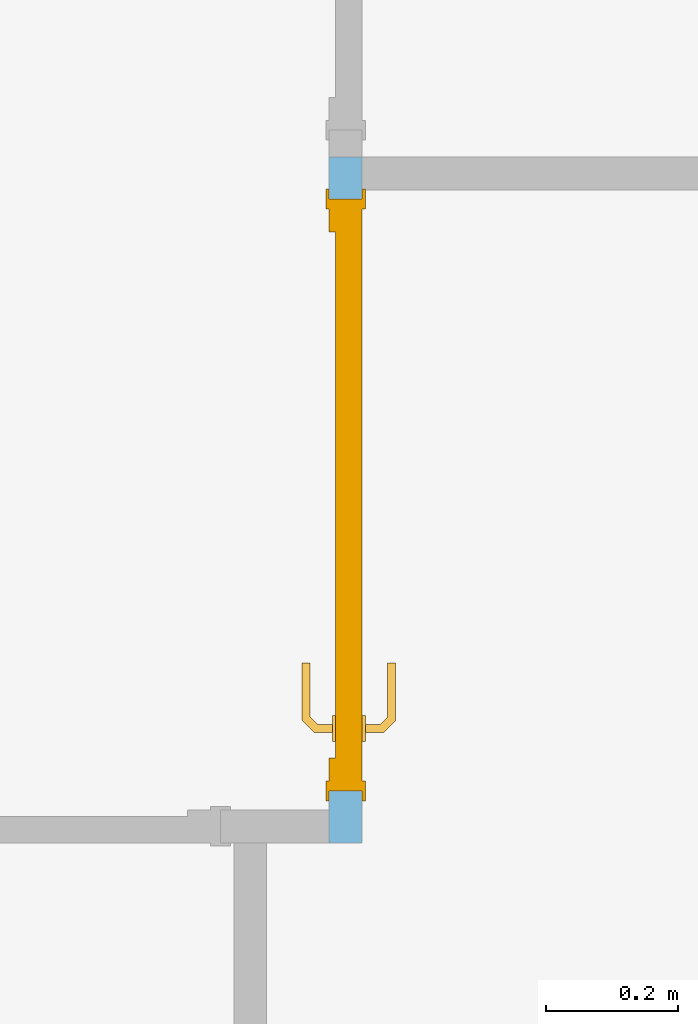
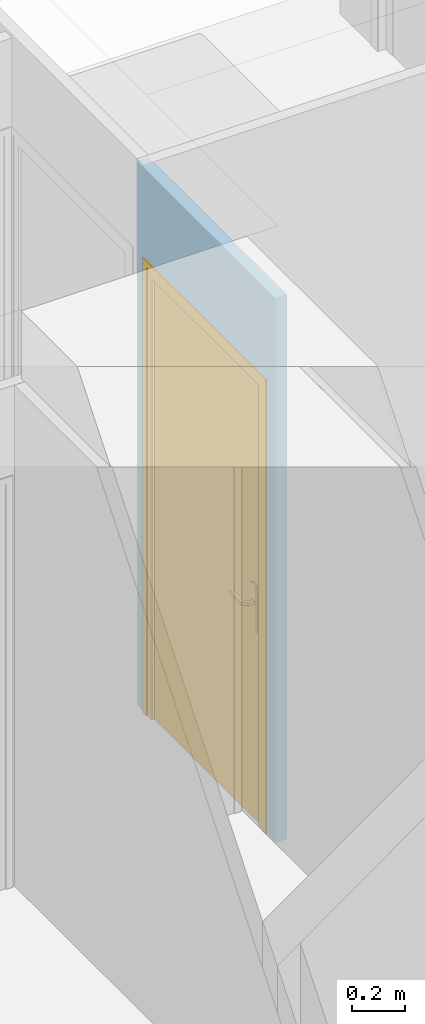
# One storey, part 5 of 11: 1 door, 2 openings, plus 1 element that does not belong to this part.
"""IFC2X3 building model written with IfcOpenShell, lengths in metres."""

from ifc_helpers import new_model, entity, si_unit, converted_unit, derived_unit, direction, frame, frame_2d, origin, place, context, subcontext, project, spatial, polyline, rectangle, extrude, clip, bounded_halfspace, faceted_brep, source, transform, mapped, material, material_list, layer, layer_set, layer_usage, type_object, type_shapes, element, fill, save


model = new_model("IFC2X3")

# Units and contexts
model_context = context("Model", 3, precision=1e-05, world=origin(), true_north=direction((6.12303176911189e-17, 1.0)))
body_context = subcontext(model_context, "Body", "Model", "MODEL_VIEW")
ifc_project = project(units=[si_unit("LENGTHUNIT", "METRE"), si_unit("AREAUNIT", "SQUARE_METRE"), si_unit("VOLUMEUNIT", "CUBIC_METRE"), converted_unit("PLANEANGLEUNIT", "DEGREE", entity("IfcRatioMeasure", 0.0174532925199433), si_unit("PLANEANGLEUNIT", "RADIAN"), dimensions=[0, 0, 0, 0, 0, 0, 0]), si_unit("MASSUNIT", "GRAM", prefix="KILO"), derived_unit("MASSDENSITYUNIT", [(si_unit("MASSUNIT", "GRAM", prefix="KILO"), 1), (si_unit("LENGTHUNIT", "METRE"), -3)]), derived_unit("MOMENTOFINERTIAUNIT", [(si_unit("LENGTHUNIT", "METRE"), 4)]), si_unit("TIMEUNIT", "SECOND"), si_unit("FREQUENCYUNIT", "HERTZ"), si_unit("THERMODYNAMICTEMPERATUREUNIT", "DEGREE_CELSIUS"), derived_unit("THERMALTRANSMITTANCEUNIT", [(si_unit("MASSUNIT", "GRAM", prefix="KILO"), 1), (si_unit("THERMODYNAMICTEMPERATUREUNIT", "KELVIN"), -1), (si_unit("TIMEUNIT", "SECOND"), -3)]), derived_unit("VOLUMETRICFLOWRATEUNIT", [(si_unit("LENGTHUNIT", "METRE"), 3), (si_unit("TIMEUNIT", "SECOND"), -1)]), si_unit("ELECTRICCURRENTUNIT", "AMPERE"), si_unit("ELECTRICVOLTAGEUNIT", "VOLT"), si_unit("POWERUNIT", "WATT"), si_unit("FORCEUNIT", "NEWTON", prefix="KILO"), si_unit("ILLUMINANCEUNIT", "LUX"), si_unit("LUMINOUSFLUXUNIT", "LUMEN"), si_unit("LUMINOUSINTENSITYUNIT", "CANDELA"), derived_unit("USERDEFINED", [(si_unit("MASSUNIT", "GRAM", prefix="KILO"), -1), (si_unit("LENGTHUNIT", "METRE"), -2), (si_unit("TIMEUNIT", "SECOND"), 3), (si_unit("LUMINOUSFLUXUNIT", "LUMEN"), 1)]), derived_unit("LINEARVELOCITYUNIT", [(si_unit("LENGTHUNIT", "METRE"), 1), (si_unit("TIMEUNIT", "SECOND"), -1)]), si_unit("PRESSUREUNIT", "PASCAL"), derived_unit("USERDEFINED", [(si_unit("LENGTHUNIT", "METRE"), -2), (si_unit("MASSUNIT", "GRAM", prefix="KILO"), 1), (si_unit("TIMEUNIT", "SECOND"), -2)]), derived_unit("LINEARFORCEUNIT", [(si_unit("MASSUNIT", "GRAM", prefix="KILO"), 1), (si_unit("LENGTHUNIT", "METRE"), 1), (si_unit("TIMEUNIT", "SECOND"), -2), (si_unit("LENGTHUNIT", "METRE"), -1)]), derived_unit("PLANARFORCEUNIT", [(si_unit("MASSUNIT", "GRAM", prefix="KILO"), 1), (si_unit("LENGTHUNIT", "METRE"), 1), (si_unit("TIMEUNIT", "SECOND"), -2), (si_unit("LENGTHUNIT", "METRE"), -2)])], contexts=[model_context])

# Site, building, storey
site_placement = place(None, origin())
site = spatial("IfcSite", under=ifc_project, at=site_placement, Name="Surface", CompositionType="ELEMENT")
building_placement = place(site_placement, origin())
building = spatial("IfcBuilding", under=site, at=building_placement, CompositionType="ELEMENT")
storey_placement = place(building_placement, frame((0.0, 0.0, 2.72)))
storey = spatial("IfcBuildingStorey", under=building, at=storey_placement, Name="02 ETG", CompositionType="ELEMENT", Elevation=2.72)

# Wall, openings, door
ifc_material_1 = material(Name="Mur par défaut")
ifc_layer = layer(ifc_material_1, 0.05)
ifc_layer_set = layer_set([ifc_layer], Name="Mur de base:Int. Plâtre 50 mm")
ifc_layer_usage = layer_usage(ifc_layer_set, "AXIS2", "NEGATIVE", 0.025)
wall_type = type_object("IfcWallType", Name="Mur de base:Int. Plâtre 50 mm", PredefinedType="STANDARD", material=ifc_layer_set)
wall_placement = place(storey_placement, frame((9.81156158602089, -0.105960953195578, 0.0), z_axis=(0.0, 0.0, 1.0), x_axis=(0.0, -1.0, 0.0)))
wall = element("IfcWallStandardCase", 1, at=wall_placement, inside=storey, type_object=wall_type, material=ifc_layer_usage, Name="Mur de base:Int. Plâtre 50 mm", ObjectType="Mur de base:Int. Plâtre 50 mm", context=body_context, shape_type="Clipping", body=[
    clip(extrude(rectangle(XDim=1.04249999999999, YDim=0.0500000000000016, at=frame_2d((0.521249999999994, -3.12250225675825e-16), x_axis=(-1.0, 0.0))), origin(), (0.0, 0.0, 1.0), 2.5), bounded_halfspace(frame((0.0, -0.0249999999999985, 2.5), z_axis=(0.0, 0.0, -1.0), x_axis=(0.0, 1.0, 0.0)), True, frame((0.0, -0.0249999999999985, 2.5)), polyline([(0.0, 0.0), (0.05, 0.0), (0.992499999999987, 0.0), (1.01749999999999, 0.0), (1.01749999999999, 0.0250000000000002), (0.0, 0.0249999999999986), (0.0, 0.0)]))),
])
opening_1_placement = place(wall_placement, frame((0.0637499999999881, -0.0250000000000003, 0.0)))
opening_1 = element("IfcOpeningElement", 2, at=opening_1_placement, cuts=wall, Name="Int. Simple:Porte pleine parement lisse bois prépeinte:1", ObjectType="Opening", context=body_context, shape_type="SweptSolid", body=[
    extrude(rectangle(XDim=2.075, YDim=0.9, at=frame_2d((1.0375, 0.45), x_axis=(1.0, 0.0))), frame((0.0, 0.0, 0.0), z_axis=(0.0, 1.0, 0.0), x_axis=(0.0, 0.0, 1.0)), (0.0, 0.0, 1.0), 0.05),
])
opening_2_placement = place(wall_placement, frame((-0.941050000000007, -0.0249999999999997, 0.0)))
element("IfcOpeningElement", 3, at=opening_2_placement, cuts=wall, Name="Int. Simple:Porte pleine parement lisse bois prépeinte:1", ObjectType="Opening", context=body_context, shape_type="SweptSolid", body=[
    extrude(rectangle(XDim=2.075, YDim=0.9, at=frame_2d((1.0375, 0.45), x_axis=(1.0, 0.0))), frame((0.0, 0.0, 0.0), z_axis=(0.0, 1.0, 0.0), x_axis=(0.0, 0.0, 1.0)), (0.0, 0.0, 1.0), 0.05),
])
ifc_material_2 = material(Name="Finition Peinture - Blanc satiné")
ifc_material_3 = material(Name="Bois - Panneau de porte")
ifc_material_4 = material(Name="Bois - Cadre de porte")
ifc_material_list_1 = material_list([ifc_material_2, ifc_material_3, ifc_material_4])
ifc_material_list_2 = material_list([ifc_material_2, ifc_material_3, ifc_material_4, ifc_material_4])
door_style = type_object("IfcDoorStyle", Name="Int. Simple:Porte pleine parement lisse bois prépeinte", ConstructionType="NOTDEFINED", OperationType="NOTDEFINED", ParameterTakesPrecedence=False, Sizeable=False, material=ifc_material_list_2)
shared_shape = source(origin(), body_context, "Body", "Brep", [
    faceted_brep([(0.105352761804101, -0.00500000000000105, 0.866003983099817), (0.115, -0.00500000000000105, 0.870000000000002), (0.114999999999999, -0.00500000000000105, 1.08), (0.1053527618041, -0.00500000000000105, 1.08399601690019), (0.094999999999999, -0.00500000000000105, 1.08535898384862), (0.0846472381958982, -0.00500000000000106, 1.08399601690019), (0.0749999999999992, -0.00500000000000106, 1.08), (0.0750000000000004, -0.00500000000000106, 0.870000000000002), (0.0846472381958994, -0.00500000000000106, 0.866003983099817), (0.0950000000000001, -0.00500000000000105, 0.86464101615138), (0.1053527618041, 0.0, 1.08399601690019), (0.114999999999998, 0.0, 1.08), (0.115, 0.0, 0.870000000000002), (0.105352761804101, 0.0, 0.866003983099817), (0.0950000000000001, 0.0, 0.86464101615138), (0.0846472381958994, 0.0, 0.866003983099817), (0.0749999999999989, 0.0, 0.870000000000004), (0.0749999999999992, 0.0, 1.08), (0.0846472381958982, 0.0, 1.08399601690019), (0.094999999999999, 0.0, 1.08535898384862)], [[[0, 1, 2, 3, 4, 5, 6, 7, 8, 9]], [[10, 11, 12, 13, 14, 15, 16, 17, 18, 19]], [[16, 15, 8, 7]], [[8, 15, 14, 9]], [[14, 13, 0, 9]], [[13, 12, 1, 0]], [[2, 1, 12, 11]], [[11, 10, 3, 2]], [[3, 10, 19, 4]], [[19, 18, 5, 4]], [[18, 17, 6, 5]], [[7, 6, 17, 16]]]),
    faceted_brep([(0.105352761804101, 0.0399999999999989, 0.866003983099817), (0.115, 0.0399999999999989, 0.870000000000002), (0.114999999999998, 0.0399999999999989, 1.08), (0.105352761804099, 0.0399999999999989, 1.08399601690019), (0.0949999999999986, 0.0399999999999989, 1.08535898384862), (0.084647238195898, 0.0399999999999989, 1.08399601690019), (0.0749999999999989, 0.0399999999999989, 1.08), (0.0750000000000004, 0.0399999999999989, 0.870000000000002), (0.0846472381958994, 0.0399999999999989, 0.866003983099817), (0.0950000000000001, 0.0399999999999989, 0.86464101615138), (0.105352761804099, 0.0449999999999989, 1.08399601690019), (0.114999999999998, 0.0449999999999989, 1.08), (0.115, 0.0449999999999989, 0.870000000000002), (0.105352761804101, 0.0449999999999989, 0.866003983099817), (0.0950000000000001, 0.0449999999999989, 0.86464101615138), (0.0846472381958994, 0.0449999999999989, 0.866003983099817), (0.0749999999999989, 0.0449999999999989, 0.870000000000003), (0.0749999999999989, 0.0449999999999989, 1.08), (0.084647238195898, 0.0449999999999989, 1.08399601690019), (0.0949999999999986, 0.0449999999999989, 1.08535898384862)], [[[0, 1, 2, 3, 4, 5, 6, 7, 8, 9]], [[10, 11, 12, 13, 14, 15, 16, 17, 18, 19]], [[11, 10, 3, 2]], [[3, 10, 19, 4]], [[19, 18, 5, 4]], [[18, 17, 6, 5]], [[7, 6, 17, 16]], [[16, 15, 8, 7]], [[8, 15, 14, 9]], [[14, 13, 0, 9]], [[13, 12, 1, 0]], [[2, 1, 12, 11]]]),
    faceted_brep([(0.0929747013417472, -0.00500000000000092, 1.00778044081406), (0.0970252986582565, -0.0050000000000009, 1.00778044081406), (0.101000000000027, -0.00500000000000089, 1.00699999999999), (0.101000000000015, -0.00500000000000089, 0.993000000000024), (0.0970252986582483, -0.0050000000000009, 0.992219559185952), (0.0929747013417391, -0.00500000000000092, 0.99221955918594), (0.0889999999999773, -0.00500000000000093, 0.992999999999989), (0.0889999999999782, -0.00500000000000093, 1.007), (0.0889999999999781, -0.0326509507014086, 1.007), (0.092974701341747, -0.0310045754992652, 1.00778044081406), (0.10902358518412, -0.0470534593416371, 1.00778044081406), (0.110701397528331, -0.0430028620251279, 1.00778044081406), (0.0970252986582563, -0.0293267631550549, 1.00778044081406), (0.101000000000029, -0.0276803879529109, 1.007), (0.101000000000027, -0.0276803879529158, 0.993000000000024), (0.0970252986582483, -0.0293267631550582, 0.992219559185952), (0.110701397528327, -0.0430028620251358, 0.992219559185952), (0.109023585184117, -0.047053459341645, 0.99221955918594), (0.0929747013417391, -0.0310045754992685, 0.99221955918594), (0.0889999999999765, -0.0326509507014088, 0.992999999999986), (0.107377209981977, -0.0510281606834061, 1.007), (0.112347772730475, -0.0390281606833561, 1.007), (0.112347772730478, -0.0390281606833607, 0.993000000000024), (0.107377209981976, -0.0510281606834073, 0.992999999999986), (0.195018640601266, -0.0510281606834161, 0.992999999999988), (0.195018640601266, -0.0470534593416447, 0.99221955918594), (0.195018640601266, -0.0430028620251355, 0.992219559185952), (0.195018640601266, -0.039028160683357, 0.993000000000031), (0.195018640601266, -0.0390281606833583, 1.007), (0.195018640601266, -0.0430028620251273, 1.00778044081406), (0.195018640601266, -0.0470534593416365, 1.00778044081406), (0.195018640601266, -0.0510281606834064, 1.00699999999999), (0.147307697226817, -0.0510281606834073, 1.007), (0.152860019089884, -0.045028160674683, 1.0078786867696), (0.15368320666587, -0.039028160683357, 1.007), (0.153683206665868, -0.0390281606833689, 0.993000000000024), (0.152860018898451, -0.0450281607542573, 0.992121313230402), (0.147307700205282, -0.0510281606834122, 0.992999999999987)], [[[0, 1, 2, 3, 4, 5, 6, 7]], [[8, 9, 0, 7]], [[9, 10, 11, 12, 1, 0]], [[12, 13, 2, 1]], [[3, 2, 13, 14]], [[14, 15, 4, 3]], [[15, 16, 17, 18, 5, 4]], [[18, 19, 6, 5]], [[7, 6, 19, 8]], [[20, 10, 9, 8]], [[11, 21, 13, 12]], [[14, 13, 21, 22]], [[22, 16, 15, 14]], [[17, 23, 19, 18]], [[8, 19, 23, 20]], [[24, 25, 26, 27, 28, 29, 30, 31]], [[32, 30, 33]], [[31, 30, 32]], [[10, 20, 32]], [[33, 34, 11]], [[21, 11, 34]], [[34, 29, 28]], [[30, 29, 33]], [[29, 34, 33]], [[10, 32, 33]], [[10, 33, 11]], [[22, 21, 34, 28, 27, 35]], [[35, 26, 36]], [[37, 36, 25]], [[22, 35, 16]], [[35, 27, 26]], [[24, 37, 25]], [[23, 17, 37]], [[37, 17, 36]], [[17, 16, 36]], [[16, 35, 36]], [[25, 36, 26]], [[20, 23, 37, 24, 31, 32]]]),
    faceted_brep([(0.0929747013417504, 0.0449999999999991, 1.00778044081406), (0.0889999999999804, 0.044999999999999, 1.007), (0.0889999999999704, 0.044999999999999, 0.992999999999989), (0.0929747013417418, 0.0449999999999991, 0.99221955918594), (0.0970252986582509, 0.0449999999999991, 0.992219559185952), (0.10100000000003, 0.0449999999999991, 0.993000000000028), (0.101000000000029, 0.0449999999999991, 1.007), (0.0970252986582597, 0.0449999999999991, 1.00778044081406), (0.10100000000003, 0.067485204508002, 0.993000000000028), (0.10100000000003, 0.0674852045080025, 1.007), (0.0970252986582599, 0.0691315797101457, 1.00778044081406), (0.110838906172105, 0.0829451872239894, 1.00778044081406), (0.109161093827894, 0.0869957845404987, 1.00778044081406), (0.0929747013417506, 0.070809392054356, 1.00778044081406), (0.0889999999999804, 0.0724557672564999, 1.007), (0.0889999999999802, 0.072455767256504, 0.992999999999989), (0.0929747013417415, 0.0708093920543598, 0.99221955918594), (0.109161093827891, 0.0869957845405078, 0.99221955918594), (0.110838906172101, 0.0829451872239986, 0.992219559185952), (0.0970252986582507, 0.0691315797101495, 0.992219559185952), (0.112485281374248, 0.0789704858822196, 0.993000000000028), (0.112485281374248, 0.0789704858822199, 1.007), (0.107514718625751, 0.0909704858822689, 1.007), (0.107514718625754, 0.090970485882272, 0.992999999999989), (0.195045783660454, 0.0789704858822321, 0.993000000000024), (0.195045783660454, 0.0829451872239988, 0.992219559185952), (0.195045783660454, 0.086995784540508, 0.99221955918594), (0.195045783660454, 0.0909704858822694, 0.992999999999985), (0.195045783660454, 0.0909704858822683, 1.007), (0.195045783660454, 0.0869957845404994, 1.00778044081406), (0.195045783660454, 0.0829451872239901, 1.00778044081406), (0.195045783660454, 0.0789704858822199, 1.007), (0.153765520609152, 0.0789704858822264, 0.993000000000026), (0.153765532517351, 0.0789704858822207, 1.007), (0.152942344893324, 0.0849704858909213, 1.0078786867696), (0.147445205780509, 0.0909704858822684, 1.007), (0.147445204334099, 0.0909704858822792, 0.992999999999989), (0.152942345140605, 0.0849704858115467, 0.992121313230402)], [[[0, 1, 2, 3, 4, 5, 6, 7]], [[6, 5, 8, 9]], [[9, 10, 7, 6]], [[10, 11, 12, 13, 0, 7]], [[13, 14, 1, 0]], [[2, 1, 14, 15]], [[15, 16, 3, 2]], [[16, 17, 18, 19, 4, 3]], [[19, 8, 5, 4]], [[9, 8, 20, 21]], [[21, 11, 10, 9]], [[12, 22, 14, 13]], [[15, 14, 22, 23]], [[23, 17, 16, 15]], [[18, 20, 8, 19]], [[24, 25, 26, 27, 28, 29, 30, 31]], [[21, 20, 32, 24, 31, 33]], [[33, 30, 34]], [[35, 34, 29]], [[21, 33, 11]], [[33, 31, 30]], [[28, 35, 29]], [[22, 12, 35]], [[35, 12, 34]], [[12, 11, 34]], [[11, 33, 34]], [[29, 34, 30]], [[22, 35, 28, 27, 36, 23]], [[36, 26, 37]], [[27, 26, 36]], [[17, 23, 36]], [[37, 32, 18]], [[20, 18, 32]], [[32, 25, 24]], [[26, 25, 37]], [[25, 32, 37]], [[17, 36, 37]], [[17, 37, 18]]]),
    faceted_brep([(0.034999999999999, 0.04, 2.04), (0.865, 0.04, 2.04), (0.864999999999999, 0.04, 0.0), (0.034999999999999, 0.04, 0.0), (0.034999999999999, 0.0, 2.04), (0.034999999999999, 0.0, 0.0), (0.864999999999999, 0.0, 0.0), (0.865, 0.0, 2.04)], [[[0, 1, 2, 3]], [[4, 5, 6, 7]], [[1, 0, 4, 7]], [[2, 1, 7, 6]], [[3, 2, 6, 5]], [[0, 3, 5, 4]]]),
    faceted_brep([(0.0, 0.0, 0.0), (0.0, 0.050000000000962, 0.0), (0.0499999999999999, 0.050000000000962, 0.0), (0.0499999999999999, 0.040000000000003, 0.0), (0.0349999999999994, 0.040000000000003, 0.0), (0.0349999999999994, 0.0, 0.0), (0.0, 0.0, 2.07500000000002), (0.0, 0.050000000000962, 2.07500000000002), (0.900000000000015, 0.050000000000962, 2.07500000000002), (0.900000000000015, 0.050000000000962, 0.0), (0.85, 0.050000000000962, 0.0), (0.85, 0.050000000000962, 2.025), (0.05, 0.050000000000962, 2.025), (0.05, 0.040000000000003, 2.025), (0.85, 0.040000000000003, 2.025), (0.85, 0.040000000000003, 0.0), (0.865, 0.040000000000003, 0.0), (0.865000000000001, 0.040000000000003, 2.04), (0.0349999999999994, 0.040000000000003, 2.04), (0.0349999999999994, 0.0, 2.04), (0.865, 0.0, 2.04), (0.865, 0.0, 0.0), (0.900000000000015, 0.0, 0.0), (0.900000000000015, 0.0, 2.07500000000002)], [[[0, 1, 2, 3, 4, 5]], [[1, 0, 6, 7]], [[2, 1, 7, 8, 9, 10, 11, 12]], [[3, 2, 12, 13]], [[4, 3, 13, 14, 15, 16, 17, 18]], [[5, 4, 18, 19]], [[0, 5, 19, 20, 21, 22, 23, 6]], [[8, 23, 22, 9]], [[22, 21, 16, 15, 10, 9]], [[14, 11, 10, 15]], [[20, 17, 16, 21]], [[7, 6, 23, 8]], [[13, 12, 11, 14]], [[19, 18, 17, 20]]]),
    faceted_brep([(0.0149999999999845, 0.050000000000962, 0.0), (-0.0150000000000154, 0.050000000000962, 0.0), (-0.0150000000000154, 0.055000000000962, 0.0), (0.0149999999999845, 0.055000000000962, 0.0), (0.0149999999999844, 0.050000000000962, 2.06000000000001), (0.884999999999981, 0.050000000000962, 2.06000000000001), (0.88499999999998, 0.050000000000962, 0.0), (0.91499999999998, 0.050000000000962, 0.0), (0.91499999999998, 0.050000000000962, 2.09000000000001), (-0.0150000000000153, 0.050000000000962, 2.09000000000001), (-0.0150000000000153, 0.055000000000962, 2.09000000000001), (0.91499999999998, 0.055000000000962, 2.09000000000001), (0.91499999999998, 0.055000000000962, 0.0), (0.88499999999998, 0.055000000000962, 0.0), (0.88499999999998, 0.055000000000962, 2.06000000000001), (0.0149999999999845, 0.055000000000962, 2.06000000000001)], [[[0, 1, 2, 3]], [[1, 0, 4, 5, 6, 7, 8, 9]], [[2, 1, 9, 10]], [[3, 2, 10, 11, 12, 13, 14, 15]], [[0, 3, 15, 4]], [[6, 13, 12, 7]], [[5, 14, 13, 6]], [[11, 8, 7, 12]], [[10, 9, 8, 11]], [[4, 15, 14, 5]]]),
    faceted_brep([(-0.0150000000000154, -0.005, 0.0), (0.0149999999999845, -0.005, 0.0), (0.0149999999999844, -0.005, 2.06000000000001), (0.884999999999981, -0.005, 2.06000000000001), (0.88499999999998, -0.005, 0.0), (0.91499999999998, -0.005, 0.0), (0.91499999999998, -0.005, 2.09000000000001), (-0.0150000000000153, -0.005, 2.09000000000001), (-0.0150000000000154, 0.0, 0.0), (-0.0150000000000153, 0.0, 2.09000000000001), (0.0149999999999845, 0.0, 0.0), (0.91499999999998, 0.0, 2.09000000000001), (0.91499999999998, 0.0, 0.0), (0.88499999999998, 0.0, 0.0), (0.88499999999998, 0.0, 2.06000000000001), (0.0149999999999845, 0.0, 2.06000000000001)], [[[0, 1, 2, 3, 4, 5, 6, 7]], [[8, 0, 7, 9]], [[10, 8, 9, 11, 12, 13, 14, 15]], [[1, 10, 15, 2]], [[3, 14, 13, 4]], [[11, 6, 5, 12]], [[9, 7, 6, 11]], [[2, 15, 14, 3]], [[4, 13, 12, 5]], [[1, 0, 8, 10]]]),
])
type_shapes(door_style, [shared_shape])
door_placement = place(opening_1_placement, frame((0.9, 0.0500000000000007, 0.0), z_axis=(0.0, 0.0, 1.0), x_axis=(-1.0, 0.0, 0.0)))
door = element("IfcDoor", 4, at=door_placement, inside=storey, type_object=door_style, material=ifc_material_list_1, Name="Int. Simple:Porte pleine parement lisse bois prépeinte", ObjectType="Int. Simple:Porte pleine parement lisse bois prépeinte", OverallHeight=2.075, OverallWidth=0.9, context=body_context, shape_type="MappedRepresentation", body=[
    mapped(shared_shape, transform((0.0, 0.0, 0.0), scale=1.0)),
])
fill(opening_1, door)

save(model, "model.ifc")
